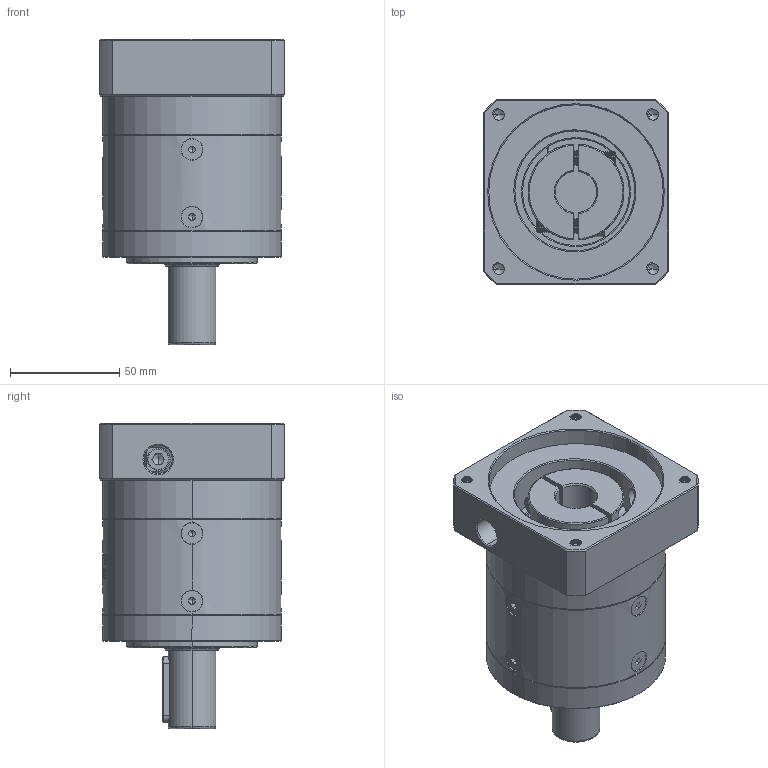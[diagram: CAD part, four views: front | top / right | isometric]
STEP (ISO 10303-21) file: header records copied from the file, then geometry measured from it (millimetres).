
FILE_DESCRIPTION (( 'STEP AP214' ), '1' );
FILE_NAME ('ZE080-D22-L1-P2-19-80-100-M6.step', '2023-08-25T09:40:54', ( '' ), ( '' ), 'SwSTEP 2.0', 'SolidWorks 2016', '' );
FILE_SCHEMA (( 'AUTOMOTIVE_DESIGN' ));
Length unit declared in the file: millimetre
Products named in the file (1): ZE080-D22-L1-P2-19-80-100-M6
Bounding box: 85 x 85 x 140 mm (x, y, z)
Volume: 511706.1 mm3; surface area: 84923 mm2
Topology: 13 solids, 13 shells, 2225 faces, 5840 edges, 3709 vertices
Faces by surface type: plane 1059, cylinder 407, bspline 397, cone 325, torus 37
Entity records: 121261 total; most frequent: CARTESIAN_POINT 47200, ORIENTED_EDGE 11604, DIRECTION 8519, EDGE_CURVE 5802, VERTEX_POINT 3709, VECTOR 3079, LINE 3079, AXIS2_PLACEMENT_3D 2720
